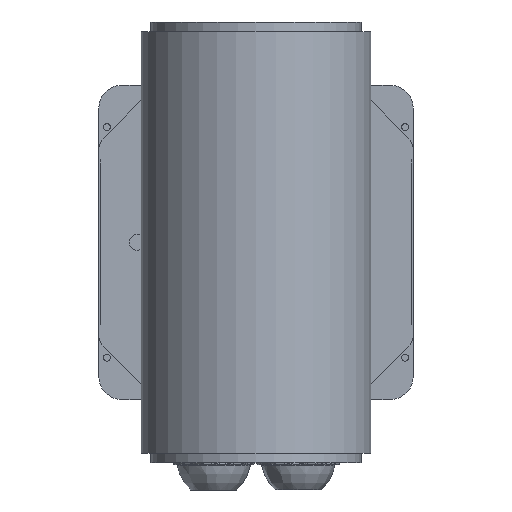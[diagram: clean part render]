
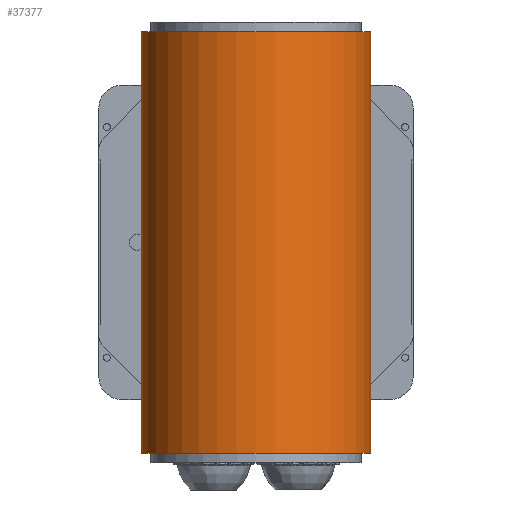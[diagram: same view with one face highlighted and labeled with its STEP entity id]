
A CAD part, front view. The second image highlights one B-rep face of the part: STEP entity #37377.
In plain terms, the highlighted cylindrical face has radius 30 mm (diameter 60 mm), a full revolution.
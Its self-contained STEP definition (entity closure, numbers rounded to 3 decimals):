
#1384=B_SPLINE_CURVE_WITH_KNOTS('',3,(#66347,#66348,#66349,#66350,#66351,
#66352,#66353,#66354,#66355,#66356,#66357,#66358,#66359,#66360,#66361,#66362,
#66363,#66364,#66365,#66366,#66367,#66368,#66369,#66370,#66371,#66372,#66373,
#66374,#66375,#66376,#66377,#66378,#66379,#66380),.UNSPECIFIED.,.T.,.F.,
(4,2,2,2,2,2,2,2,2,2,2,2,2,2,2,2,4),(0.,0.38,0.76,
1.14,1.519,1.899,2.279,2.659,
3.039,3.419,3.799,4.178,4.558,
4.938,5.318,5.698,6.078),
 .UNSPECIFIED.);
#1615=FACE_BOUND('',#6873,.T.);
#4695=FACE_OUTER_BOUND('',#6872,.T.);
#6872=EDGE_LOOP('',(#32764,#32765,#32766,#32767,#32768));
#6873=EDGE_LOOP('',(#32769));
#10481=LINE('',#66655,#14061);
#14061=VECTOR('',#47012,30.);
#14636=CIRCLE('',#39437,30.);
#14639=CIRCLE('',#39441,30.);
#14640=CIRCLE('',#39442,30.);
#17859=VERTEX_POINT('',#66345);
#17905=VERTEX_POINT('',#66642);
#17906=VERTEX_POINT('',#66647);
#17907=VERTEX_POINT('',#66648);
#22807=EDGE_CURVE('',#17859,#17859,#1384,.T.);
#22866=EDGE_CURVE('',#17905,#17905,#14636,.T.);
#22869=EDGE_CURVE('',#17906,#17907,#14639,.T.);
#22870=EDGE_CURVE('',#17907,#17906,#14640,.T.);
#22874=EDGE_CURVE('',#17905,#17907,#10481,.T.);
#32764=ORIENTED_EDGE('',*,*,#22866,.F.);
#32765=ORIENTED_EDGE('',*,*,#22874,.T.);
#32766=ORIENTED_EDGE('',*,*,#22870,.T.);
#32767=ORIENTED_EDGE('',*,*,#22869,.T.);
#32768=ORIENTED_EDGE('',*,*,#22874,.F.);
#32769=ORIENTED_EDGE('',*,*,#22807,.T.);
#33479=CYLINDRICAL_SURFACE('',#39446,30.);
#37377=ADVANCED_FACE('',(#4695,#1615),#33479,.T.);
#39437=AXIS2_PLACEMENT_3D('',#66643,#46992,#46993);
#39441=AXIS2_PLACEMENT_3D('',#66649,#47000,#47001);
#39442=AXIS2_PLACEMENT_3D('',#66650,#47002,#47003);
#39446=AXIS2_PLACEMENT_3D('',#66654,#47010,#47011);
#46992=DIRECTION('center_axis',(0.,0.,-1.));
#46993=DIRECTION('ref_axis',(-1.,0.,0.));
#47000=DIRECTION('center_axis',(0.,0.,-1.));
#47001=DIRECTION('ref_axis',(-1.,0.,0.));
#47002=DIRECTION('center_axis',(0.,0.,-1.));
#47003=DIRECTION('ref_axis',(-1.,0.,0.));
#47010=DIRECTION('center_axis',(0.,0.,-1.));
#47011=DIRECTION('ref_axis',(-1.,0.,0.));
#47012=DIRECTION('',(0.,0.,1.));
#66345=CARTESIAN_POINT('',(10.,28.284,10.));
#66347=CARTESIAN_POINT('Ctrl Pts',(10.,28.284,10.));
#66348=CARTESIAN_POINT('Ctrl Pts',(10.,28.284,11.266));
#66349=CARTESIAN_POINT('Ctrl Pts',(9.745,28.378,12.61));
#66350=CARTESIAN_POINT('Ctrl Pts',(8.722,28.709,15.071));
#66351=CARTESIAN_POINT('Ctrl Pts',(7.954,28.941,16.188));
#66352=CARTESIAN_POINT('Ctrl Pts',(6.189,29.369,17.953));
#66353=CARTESIAN_POINT('Ctrl Pts',(5.071,29.594,18.721));
#66354=CARTESIAN_POINT('Ctrl Pts',(2.61,29.912,19.745));
#66355=CARTESIAN_POINT('Ctrl Pts',(1.266,30.,20.));
#66356=CARTESIAN_POINT('Ctrl Pts',(-1.266,30.,20.));
#66357=CARTESIAN_POINT('Ctrl Pts',(-2.61,29.912,19.745));
#66358=CARTESIAN_POINT('Ctrl Pts',(-5.071,29.594,18.721));
#66359=CARTESIAN_POINT('Ctrl Pts',(-6.189,29.369,17.953));
#66360=CARTESIAN_POINT('Ctrl Pts',(-7.954,28.941,16.188));
#66361=CARTESIAN_POINT('Ctrl Pts',(-8.722,28.709,15.071));
#66362=CARTESIAN_POINT('Ctrl Pts',(-9.745,28.378,12.61));
#66363=CARTESIAN_POINT('Ctrl Pts',(-10.,28.284,11.266));
#66364=CARTESIAN_POINT('Ctrl Pts',(-10.,28.284,8.734));
#66365=CARTESIAN_POINT('Ctrl Pts',(-9.745,28.378,7.39));
#66366=CARTESIAN_POINT('Ctrl Pts',(-8.722,28.709,4.929));
#66367=CARTESIAN_POINT('Ctrl Pts',(-7.954,28.941,3.812));
#66368=CARTESIAN_POINT('Ctrl Pts',(-6.189,29.369,2.047));
#66369=CARTESIAN_POINT('Ctrl Pts',(-5.071,29.594,1.279));
#66370=CARTESIAN_POINT('Ctrl Pts',(-2.61,29.912,0.255));
#66371=CARTESIAN_POINT('Ctrl Pts',(-1.266,30.,0.));
#66372=CARTESIAN_POINT('Ctrl Pts',(1.266,30.,0.));
#66373=CARTESIAN_POINT('Ctrl Pts',(2.61,29.912,0.255));
#66374=CARTESIAN_POINT('Ctrl Pts',(5.071,29.594,1.279));
#66375=CARTESIAN_POINT('Ctrl Pts',(6.189,29.369,2.047));
#66376=CARTESIAN_POINT('Ctrl Pts',(7.954,28.941,3.812));
#66377=CARTESIAN_POINT('Ctrl Pts',(8.722,28.709,4.929));
#66378=CARTESIAN_POINT('Ctrl Pts',(9.745,28.378,7.39));
#66379=CARTESIAN_POINT('Ctrl Pts',(10.,28.284,8.734));
#66380=CARTESIAN_POINT('Ctrl Pts',(10.,28.284,10.));
#66642=CARTESIAN_POINT('',(30.,0.,-45.));
#66643=CARTESIAN_POINT('Origin',(0.,0.,-45.));
#66647=CARTESIAN_POINT('',(-30.,0.,65.));
#66648=CARTESIAN_POINT('',(30.,0.,65.));
#66649=CARTESIAN_POINT('Origin',(0.,0.,65.));
#66650=CARTESIAN_POINT('Origin',(0.,0.,65.));
#66654=CARTESIAN_POINT('Origin',(0.,0.,65.));
#66655=CARTESIAN_POINT('',(30.,0.,65.));
